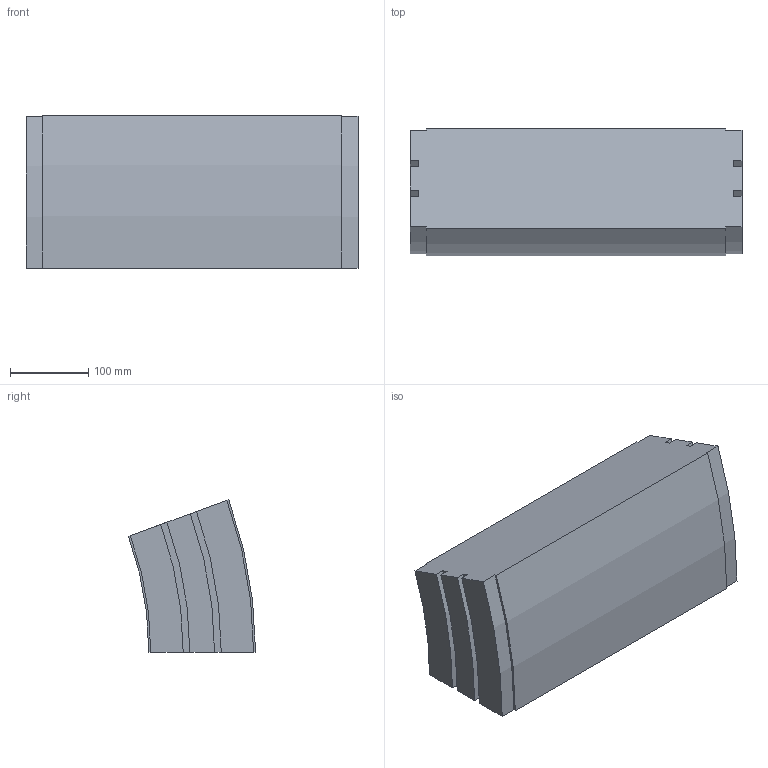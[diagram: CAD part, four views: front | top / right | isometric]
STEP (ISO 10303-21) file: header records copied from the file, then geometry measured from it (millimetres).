
FILE_DESCRIPTION (( 'STEP AP214' ), '1' );
FILE_NAME ('02.150V20.420.N FS-350-MTC-150 Bocht verticaal 20°.STEP', '2013-03-29T12:30:45', ( 'Gebruiker' ), ( '' ), 'SwSTEP 2.0', 'SolidWorks 2012', '' );
FILE_SCHEMA (( 'AUTOMOTIVE_DESIGN' ));
Length unit declared in the file: millimetre
Products named in the file (1): 02.150V20.420.N FS-350-MTC-150 Bocht verticaal 20°
Bounding box: 423 x 162.05 x 194.27 mm (x, y, z)
Volume: 9938602.9 mm3; surface area: 324374.7 mm2
Topology: 1 solids, 1 shells, 30 faces, 84 edges, 56 vertices
Faces by surface type: plane 16, cylinder 14
Entity records: 1010 total; most frequent: DIRECTION 174, CARTESIAN_POINT 171, ORIENTED_EDGE 168, EDGE_CURVE 84, AXIS2_PLACEMENT_3D 59, VECTOR 56, LINE 56, VERTEX_POINT 56
